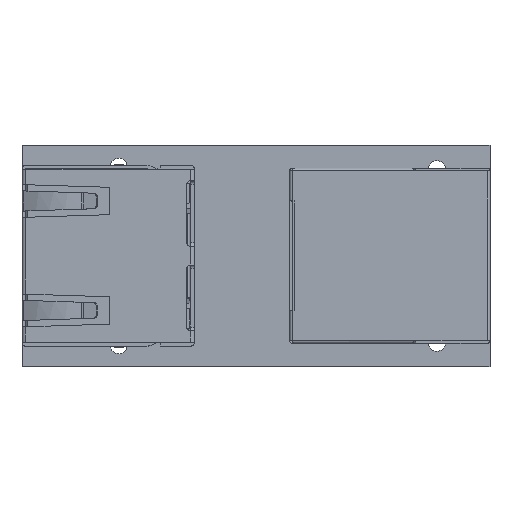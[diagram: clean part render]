
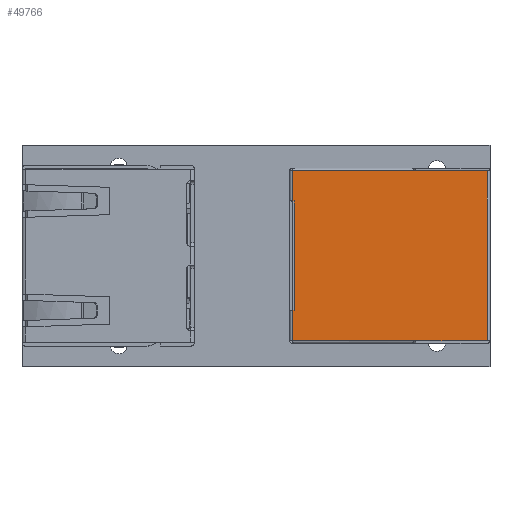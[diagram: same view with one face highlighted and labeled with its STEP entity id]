
A CAD part, top view. The second image highlights one B-rep face of the part: STEP entity #49766.
In plain terms, the highlighted planar face has unit normal (0, 0, 1) as drawn and (0, 1, 0) by its records, which use the part's own axes.
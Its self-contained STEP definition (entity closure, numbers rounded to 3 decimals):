
#35175=DIRECTION('',(-1.,0.,0.001));
#35176=VECTOR('',#35175,2.751);
#35177=CARTESIAN_POINT('',(7.751,13.03,
-0.082));
#35178=LINE('',#35177,#35176);
#35179=DIRECTION('',(0.,0.,-1.));
#35180=VECTOR('',#35179,11.125);
#35181=CARTESIAN_POINT('',(7.75,13.03,11.043));
#35182=LINE('',#35181,#35180);
#35183=DIRECTION('',(0.,0.,1.));
#35184=VECTOR('',#35183,6.707);
#35185=CARTESIAN_POINT('',(7.75,13.03,11.043));
#35186=LINE('',#35185,#35184);
#35187=DIRECTION('',(0.,0.,-1.));
#35188=VECTOR('',#35187,6.707);
#35189=CARTESIAN_POINT('',(-7.75,13.03,17.75));
#35190=LINE('',#35189,#35188);
#35199=DIRECTION('',(0.,0.,-1.));
#35200=VECTOR('',#35199,0.18);
#35201=CARTESIAN_POINT('',(-5.,13.03,0.1));
#35202=LINE('',#35201,#35200);
#35287=DIRECTION('',(0.,0.,1.));
#35288=VECTOR('',#35287,11.123);
#35289=CARTESIAN_POINT('',(-7.75,13.03,-0.08));
#35290=LINE('',#35289,#35288);
#35876=DIRECTION('',(0.,0.,1.));
#35877=VECTOR('',#35876,0.18);
#35878=CARTESIAN_POINT('',(5.,13.03,-0.08));
#35879=LINE('',#35878,#35877);
#35897=DIRECTION('',(-1.,0.,0.));
#35898=VECTOR('',#35897,10.);
#35899=CARTESIAN_POINT('',(5.,13.03,0.1));
#35900=LINE('',#35899,#35898);
#37657=DIRECTION('',(-1.,0.,0.));
#37658=VECTOR('',#37657,2.75);
#37659=CARTESIAN_POINT('',(-5.,13.03,-0.08));
#37660=LINE('',#37659,#37658);
#37669=DIRECTION('',(1.,0.,0.));
#37670=VECTOR('',#37669,15.5);
#37671=CARTESIAN_POINT('',(-7.75,13.03,17.75));
#37672=LINE('',#37671,#37670);
#40191=CARTESIAN_POINT('',(7.75,13.03,11.043));
#40192=CARTESIAN_POINT('',(7.75,13.03,17.75));
#40193=VERTEX_POINT('',#40191);
#40194=VERTEX_POINT('',#40192);
#40197=CARTESIAN_POINT('',(-5.,13.03,0.1));
#40198=CARTESIAN_POINT('',(-5.,13.03,-0.08));
#40199=VERTEX_POINT('',#40197);
#40200=VERTEX_POINT('',#40198);
#40201=CARTESIAN_POINT('',(-7.75,13.03,-0.08));
#40202=VERTEX_POINT('',#40201);
#40203=CARTESIAN_POINT('',(-7.75,13.03,11.043));
#40204=VERTEX_POINT('',#40203);
#40205=CARTESIAN_POINT('',(-7.75,13.03,17.75));
#40206=VERTEX_POINT('',#40205);
#40207=CARTESIAN_POINT('',(5.,13.03,-0.08));
#40208=CARTESIAN_POINT('',(5.,13.03,0.1));
#40209=VERTEX_POINT('',#40207);
#40210=VERTEX_POINT('',#40208);
#42022=CARTESIAN_POINT('',(7.751,13.03,
-0.082));
#42023=VERTEX_POINT('',#42022);
#49741=CARTESIAN_POINT('',(0.,13.03,8.835));
#49742=DIRECTION('',(0.,1.,0.));
#49743=DIRECTION('',(0.,0.,-1.));
#49744=AXIS2_PLACEMENT_3D('',#49741,#49742,#49743);
#49745=PLANE('',#49744);
#49747=ORIENTED_EDGE('',*,*,#49746,.F.);
#49749=ORIENTED_EDGE('',*,*,#49748,.F.);
#49751=ORIENTED_EDGE('',*,*,#49750,.F.);
#49753=ORIENTED_EDGE('',*,*,#49752,.F.);
#49755=ORIENTED_EDGE('',*,*,#49754,.F.);
#49756=ORIENTED_EDGE('',*,*,#49726,.T.);
#49758=ORIENTED_EDGE('',*,*,#49757,.F.);
#49759=ORIENTED_EDGE('',*,*,#49297,.T.);
#49761=ORIENTED_EDGE('',*,*,#49760,.F.);
#49763=ORIENTED_EDGE('',*,*,#49762,.F.);
#49764=EDGE_LOOP('',(#49747,#49749,#49751,#49753,#49755,#49756,#49758,#49759,
#49761,#49763));
#49765=FACE_OUTER_BOUND('',#49764,.F.);
#49766=ADVANCED_FACE('',(#49765),#49745,.T.);
#49297=EDGE_CURVE('',#40206,#40204,#35190,.T.);
#49726=EDGE_CURVE('',#40193,#40194,#35186,.T.);
#49746=EDGE_CURVE('',#40199,#40200,#35202,.T.);
#49748=EDGE_CURVE('',#40210,#40199,#35900,.T.);
#49750=EDGE_CURVE('',#40209,#40210,#35879,.T.);
#49752=EDGE_CURVE('',#42023,#40209,#35178,.T.);
#49754=EDGE_CURVE('',#40193,#42023,#35182,.T.);
#49757=EDGE_CURVE('',#40206,#40194,#37672,.T.);
#49760=EDGE_CURVE('',#40202,#40204,#35290,.T.);
#49762=EDGE_CURVE('',#40200,#40202,#37660,.T.);
